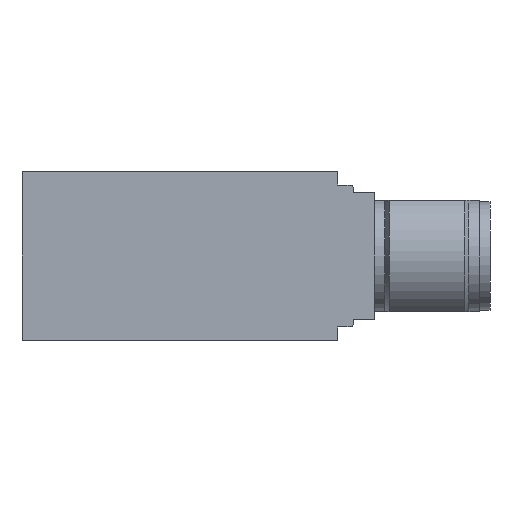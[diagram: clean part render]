
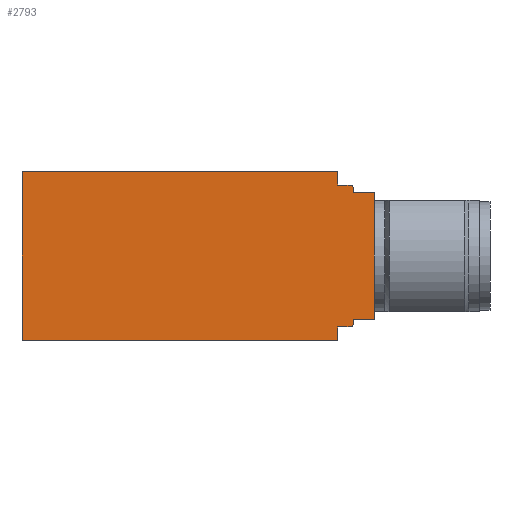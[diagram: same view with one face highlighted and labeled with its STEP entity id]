
A CAD part, front view. The second image highlights one B-rep face of the part: STEP entity #2793.
In plain terms, the highlighted planar face has unit normal (0, -1, 0) as drawn and (0, 0, -1) by its records, which use the part's own axes.
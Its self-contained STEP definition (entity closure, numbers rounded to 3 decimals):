
#57=LINE('',#4126,#288);
#65=LINE('',#4141,#296);
#97=LINE('',#4244,#328);
#113=LINE('',#4289,#344);
#129=LINE('',#4322,#360);
#130=LINE('',#4325,#361);
#131=LINE('',#4329,#362);
#132=LINE('',#4331,#363);
#133=LINE('',#4333,#364);
#134=LINE('',#4335,#365);
#135=LINE('',#4337,#366);
#136=LINE('',#4340,#367);
#288=VECTOR('',#3291,1.25);
#296=VECTOR('',#3299,1.25);
#328=VECTOR('',#3403,30.);
#344=VECTOR('',#3447,16.);
#360=VECTOR('',#3485,30.);
#361=VECTOR('',#3488,1.2);
#362=VECTOR('',#3491,0.45);
#363=VECTOR('',#3492,2.);
#364=VECTOR('',#3493,12.);
#365=VECTOR('',#3494,2.);
#366=VECTOR('',#3495,0.45);
#367=VECTOR('',#3498,1.2);
#551=PLANE('',#3008);
#701=FACE_OUTER_BOUND('',#879,.T.);
#879=EDGE_LOOP('',(#2021,#2022,#2023,#2024,#2025,#2026,#2027,#2028,#2029,
#2030,#2031,#2032,#2033,#2034));
#1049=CIRCLE('',#3009,0.3);
#1050=CIRCLE('',#3010,0.3);
#1156=VERTEX_POINT('',#4118);
#1159=VERTEX_POINT('',#4123);
#1160=VERTEX_POINT('',#4125);
#1167=VERTEX_POINT('',#4139);
#1202=VERTEX_POINT('',#4242);
#1217=VERTEX_POINT('',#4287);
#1224=VERTEX_POINT('',#4324);
#1225=VERTEX_POINT('',#4326);
#1226=VERTEX_POINT('',#4328);
#1227=VERTEX_POINT('',#4330);
#1228=VERTEX_POINT('',#4332);
#1229=VERTEX_POINT('',#4334);
#1230=VERTEX_POINT('',#4336);
#1231=VERTEX_POINT('',#4338);
#1425=EDGE_CURVE('',#1160,#1159,#57,.T.);
#1433=EDGE_CURVE('',#1156,#1167,#65,.T.);
#1482=EDGE_CURVE('',#1167,#1202,#97,.T.);
#1504=EDGE_CURVE('',#1217,#1202,#113,.T.);
#1521=EDGE_CURVE('',#1217,#1160,#129,.T.);
#1522=EDGE_CURVE('',#1159,#1224,#130,.T.);
#1523=EDGE_CURVE('',#1224,#1225,#1049,.T.);
#1524=EDGE_CURVE('',#1225,#1226,#131,.T.);
#1525=EDGE_CURVE('',#1226,#1227,#132,.T.);
#1526=EDGE_CURVE('',#1228,#1227,#133,.T.);
#1527=EDGE_CURVE('',#1229,#1228,#134,.T.);
#1528=EDGE_CURVE('',#1230,#1229,#135,.T.);
#1529=EDGE_CURVE('',#1231,#1230,#1050,.T.);
#1530=EDGE_CURVE('',#1156,#1231,#136,.T.);
#2021=ORIENTED_EDGE('',*,*,#1522,.T.);
#2022=ORIENTED_EDGE('',*,*,#1523,.T.);
#2023=ORIENTED_EDGE('',*,*,#1524,.T.);
#2024=ORIENTED_EDGE('',*,*,#1525,.T.);
#2025=ORIENTED_EDGE('',*,*,#1526,.F.);
#2026=ORIENTED_EDGE('',*,*,#1527,.F.);
#2027=ORIENTED_EDGE('',*,*,#1528,.F.);
#2028=ORIENTED_EDGE('',*,*,#1529,.F.);
#2029=ORIENTED_EDGE('',*,*,#1530,.F.);
#2030=ORIENTED_EDGE('',*,*,#1433,.T.);
#2031=ORIENTED_EDGE('',*,*,#1482,.T.);
#2032=ORIENTED_EDGE('',*,*,#1504,.F.);
#2033=ORIENTED_EDGE('',*,*,#1521,.T.);
#2034=ORIENTED_EDGE('',*,*,#1425,.T.);
#2793=ADVANCED_FACE('',(#701),#551,.F.);
#3008=AXIS2_PLACEMENT_3D('',#4323,#3486,#3487);
#3009=AXIS2_PLACEMENT_3D('',#4327,#3489,#3490);
#3010=AXIS2_PLACEMENT_3D('',#4339,#3496,#3497);
#3291=DIRECTION('',(0.,-1.,0.));
#3299=DIRECTION('',(0.,-1.,0.));
#3403=DIRECTION('',(-1.,0.,0.));
#3447=DIRECTION('',(0.,-1.,0.));
#3485=DIRECTION('',(1.,0.,0.));
#3486=DIRECTION('center_axis',(0.,0.,1.));
#3487=DIRECTION('ref_axis',(1.,0.,0.));
#3488=DIRECTION('',(1.,0.,0.));
#3489=DIRECTION('center_axis',(0.,0.,-1.));
#3490=DIRECTION('ref_axis',(0.707,0.707,0.));
#3491=DIRECTION('',(0.,-1.,0.));
#3492=DIRECTION('',(1.,0.,0.));
#3493=DIRECTION('',(0.,1.,0.));
#3494=DIRECTION('',(1.,0.,0.));
#3495=DIRECTION('',(0.,1.,0.));
#3496=DIRECTION('center_axis',(0.,0.,1.));
#3497=DIRECTION('ref_axis',(0.707,-0.707,0.));
#3498=DIRECTION('',(1.,0.,0.));
#4118=CARTESIAN_POINT('',(15.,-14.75,-43.));
#4123=CARTESIAN_POINT('',(15.,-1.25,-43.));
#4125=CARTESIAN_POINT('',(15.,0.,-43.));
#4126=CARTESIAN_POINT('',(15.,0.,-43.));
#4139=CARTESIAN_POINT('',(15.,-16.,-43.));
#4141=CARTESIAN_POINT('',(15.,-14.75,-43.));
#4242=CARTESIAN_POINT('',(-15.,-16.,-43.));
#4244=CARTESIAN_POINT('',(15.,-16.,-43.));
#4287=CARTESIAN_POINT('',(-15.,0.,-43.));
#4289=CARTESIAN_POINT('',(-15.,0.,-43.));
#4322=CARTESIAN_POINT('',(-15.,0.,-43.));
#4323=CARTESIAN_POINT('Origin',(1.75,-16.,-43.));
#4324=CARTESIAN_POINT('',(16.2,-1.25,-43.));
#4325=CARTESIAN_POINT('',(15.,-1.25,-43.));
#4326=CARTESIAN_POINT('',(16.5,-1.55,-43.));
#4327=CARTESIAN_POINT('Origin',(16.2,-1.55,-43.));
#4328=CARTESIAN_POINT('',(16.5,-2.,-43.));
#4329=CARTESIAN_POINT('',(16.5,-1.55,-43.));
#4330=CARTESIAN_POINT('',(18.5,-2.,-43.));
#4331=CARTESIAN_POINT('',(16.5,-2.,-43.));
#4332=CARTESIAN_POINT('',(18.5,-14.,-43.));
#4333=CARTESIAN_POINT('',(18.5,-14.,-43.));
#4334=CARTESIAN_POINT('',(16.5,-14.,-43.));
#4335=CARTESIAN_POINT('',(16.5,-14.,-43.));
#4336=CARTESIAN_POINT('',(16.5,-14.45,-43.));
#4337=CARTESIAN_POINT('',(16.5,-14.45,-43.));
#4338=CARTESIAN_POINT('',(16.2,-14.75,-43.));
#4339=CARTESIAN_POINT('Origin',(16.2,-14.45,-43.));
#4340=CARTESIAN_POINT('',(15.,-14.75,-43.));
